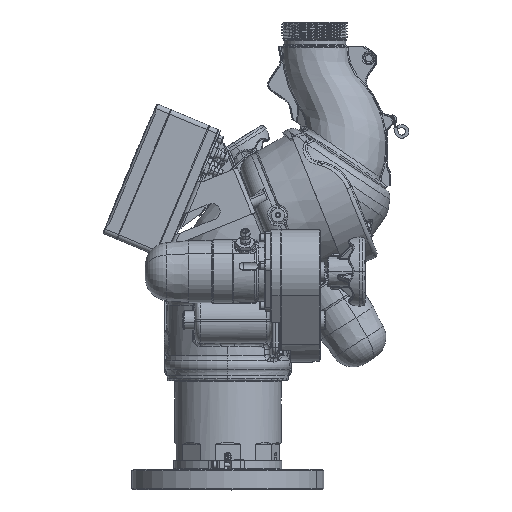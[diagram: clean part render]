
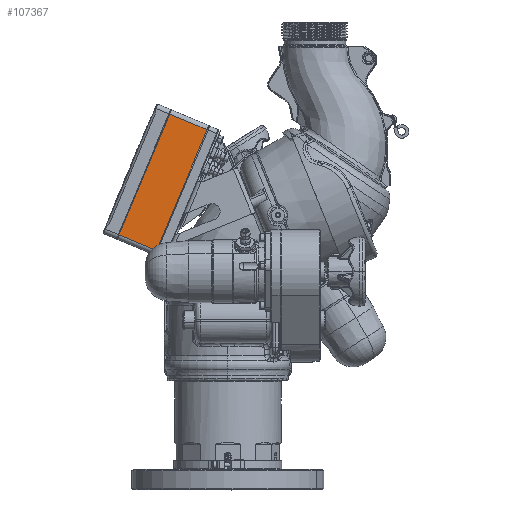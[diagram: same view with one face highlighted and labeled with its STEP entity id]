
A CAD part, top view. The second image highlights one B-rep face of the part: STEP entity #107367.
In plain terms, the highlighted planar face has unit normal (0, 0, 1).
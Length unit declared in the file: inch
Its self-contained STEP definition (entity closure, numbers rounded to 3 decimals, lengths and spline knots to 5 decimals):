
#5895 = DIRECTION ( 'NONE',  ( -0.923, 0.386, 0. ) ) ;
#8446 = CARTESIAN_POINT ( 'NONE',  ( -6.71575, 1.44261, 2.87143 ) ) ;
#14873 = ORIENTED_EDGE ( 'NONE', *, *, #101000, .T. ) ;
#16248 = CARTESIAN_POINT ( 'NONE',  ( -4.46277, 7.09067, 2.87143 ) ) ;
#18894 = LINE ( 'NONE', #171814, #129823 ) ;
#23531 = LINE ( 'NONE', #16248, #175858 ) ;
#40582 = VERTEX_POINT ( 'NONE', #184307 ) ;
#42519 = AXIS2_PLACEMENT_3D ( 'NONE', #8446, #97470, #67113 ) ;
#43173 = FACE_OUTER_BOUND ( 'NONE', #165222, .T. ) ;
#44671 = DIRECTION ( 'NONE',  ( 0.386, 0.923, 0. ) ) ;
#62807 = LINE ( 'NONE', #181276, #97450 ) ;
#66542 = ORIENTED_EDGE ( 'NONE', *, *, #182204, .F. ) ;
#67113 = DIRECTION ( 'NONE',  ( 0.386, 0.923, 0. ) ) ;
#74000 = EDGE_CURVE ( 'NONE', #129409, #187374, #85757, .T. ) ;
#85757 = LINE ( 'NONE', #154619, #127398 ) ;
#97450 = VECTOR ( 'NONE', #5895, 39.37008 ) ;
#97470 = DIRECTION ( 'NONE',  ( 0., 0., 1. ) ) ;
#99179 = DIRECTION ( 'NONE',  ( 0.386, 0.923, 0. ) ) ;
#100548 = VERTEX_POINT ( 'NONE', #179600 ) ;
#101000 = EDGE_CURVE ( 'NONE', #40582, #100548, #23531, .T. ) ;
#101165 = EDGE_CURVE ( 'NONE', #100548, #187374, #62807, .T. ) ;
#107367 = ADVANCED_FACE ( 'NONE', ( #43173 ), #124599, .T. ) ;
#124599 = PLANE ( 'NONE',  #42519 ) ;
#127398 = VECTOR ( 'NONE', #99179, 39.37008 ) ;
#129409 = VERTEX_POINT ( 'NONE', #147432 ) ;
#129823 = VECTOR ( 'NONE', #151883, 39.37008 ) ;
#147432 = CARTESIAN_POINT ( 'NONE',  ( -8.54252, 2.20636, 2.87143 ) ) ;
#151883 = DIRECTION ( 'NONE',  ( -0.923, 0.386, 0. ) ) ;
#154619 = CARTESIAN_POINT ( 'NONE',  ( -8.54252, 2.20636, 2.87143 ) ) ;
#165222 = EDGE_LOOP ( 'NONE', ( #66542, #14873, #175629, #175517 ) ) ;
#171814 = CARTESIAN_POINT ( 'NONE',  ( -6.71575, 1.44261, 2.87143 ) ) ;
#175517 = ORIENTED_EDGE ( 'NONE', *, *, #74000, .F. ) ;
#175629 = ORIENTED_EDGE ( 'NONE', *, *, #101165, .T. ) ;
#175858 = VECTOR ( 'NONE', #44671, 39.37008 ) ;
#179600 = CARTESIAN_POINT ( 'NONE',  ( -4.46277, 7.09067, 2.87143 ) ) ;
#181276 = CARTESIAN_POINT ( 'NONE',  ( -4.37051, 7.05209, 2.87143 ) ) ;
#182204 = EDGE_CURVE ( 'NONE', #40582, #129409, #18894, .T. ) ;
#184307 = CARTESIAN_POINT ( 'NONE',  ( -6.80801, 1.48119, 2.87143 ) ) ;
#187374 = VERTEX_POINT ( 'NONE', #190306 ) ;
#190306 = CARTESIAN_POINT ( 'NONE',  ( -6.19728, 7.81584, 2.87143 ) ) ;
